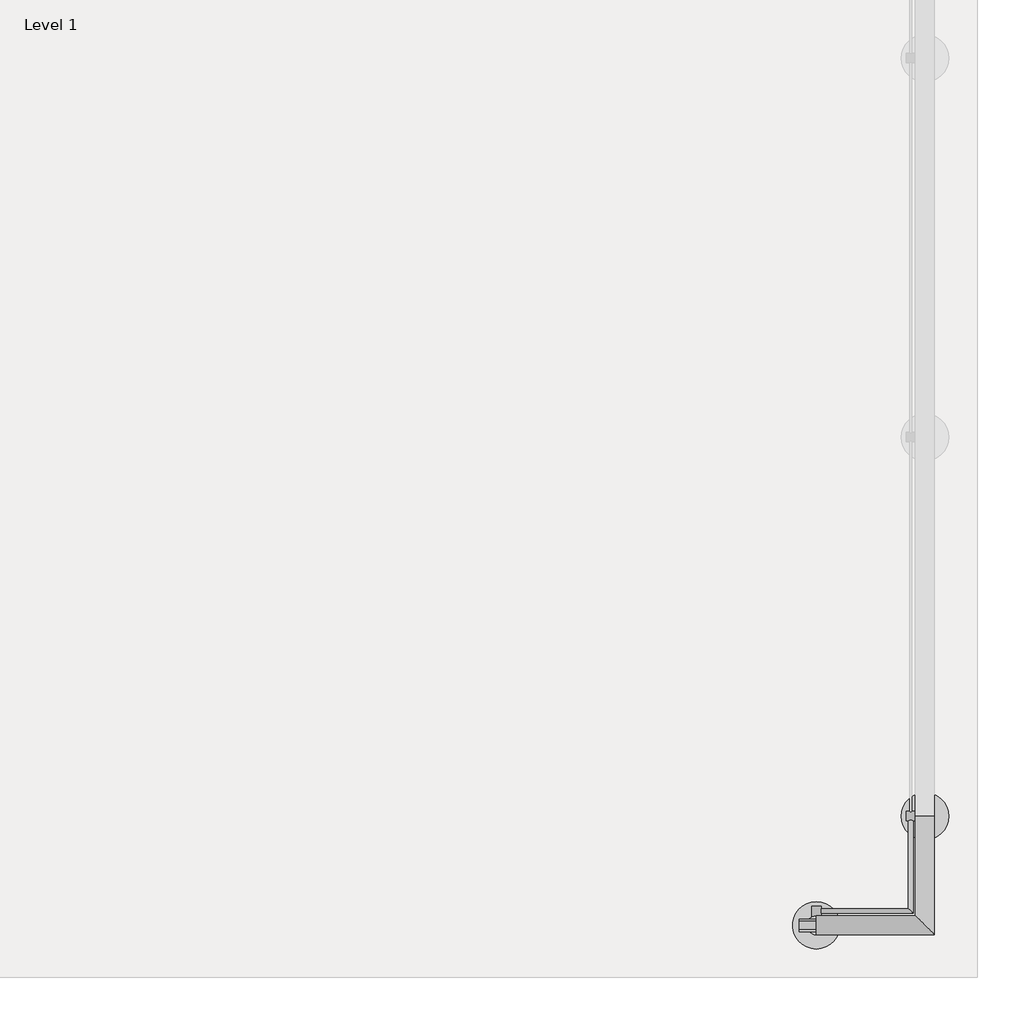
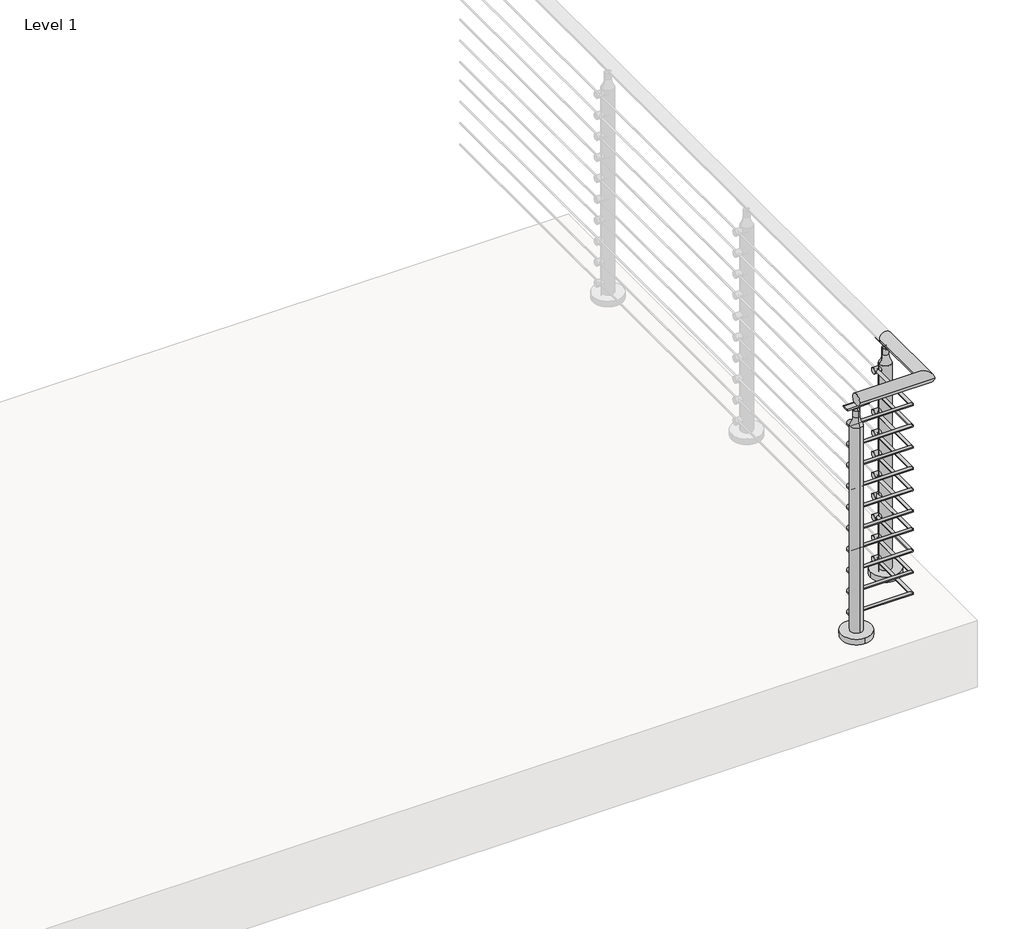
# One storey, part 8 of 21: 1 railing.
"""IFC4 building model written with IfcOpenShell, lengths in millimetres."""

from ifc_helpers import new_model, si_unit, point, frame, frame_2d, origin, origin_with_axes, place, context, project, spatial, polyline, circle_curve, ellipse_curve, trimmed, segment, composite_curve, outline, extrude, element, save
from ifc_brep_helpers import plane_surface, cylinder_surface, revolved_surface, advanced_brep

model = new_model("IFC4")

# Units and contexts
model_context = context("Model", 3, world=origin())
ifc_project = project(units=[si_unit("LENGTHUNIT", "METRE", prefix="MILLI")], contexts=[model_context])

# Site, building, storey
site = spatial("IfcSite", under=ifc_project)
building = spatial("IfcBuilding", under=site)
storey = spatial("IfcBuildingStorey", under=building, Name="Level 1", Elevation=0.0)

# Railing
placement = place(None, origin())
element("IfcRailing", 1, ObjectType="VIVA-CIRCA-Multiline-Cable-Core Mount-Corner", at=placement, inside=storey, context=model_context, shape_type="SolidModel", body=[
    advanced_brep(
    [(69591.9592968, -73670.2943064, 1054.1), (69591.9592968, -73619.4943064, 1054.1), (69909.4592968, -73670.2943064, 1054.1), (69858.6592968, -73619.4943064, 1054.1), (69909.4592968, -73352.7943064, 1054.1), (69858.6592968, -73352.7943064, 1054.1)],
    [
        (0, 1, circle_curve(frame((69591.9592968, -73644.8943064, 1054.1), z_axis=(-1.0, 0.0, 0.0), x_axis=(0.0, 1.0, 0.0)), 25.4)),
        (1, 0, circle_curve(frame((69591.9592968, -73644.8943064, 1054.1), z_axis=(-1.0, 0.0, 0.0), x_axis=(0.0, 1.0, 0.0)), 25.4)),
        (0, 2),
        (2, 3, ellipse_curve(frame((69884.0592968, -73644.8943064, 1054.1), z_axis=(-0.7071067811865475, -0.7071067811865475, 0.0), x_axis=(-0.7071067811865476, 0.7071067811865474, 0.0)), 35.9210245, 25.4)),
        (3, 1),
        (3, 2, ellipse_curve(frame((69884.0592968, -73644.8943064, 1054.1), z_axis=(-0.7071067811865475, -0.7071067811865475, 0.0), x_axis=(-0.7071067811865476, 0.7071067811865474, 0.0)), 35.9210245, 25.4)),
        (4, 5, circle_curve(frame((69884.0592968, -73352.7943064, 1054.1), z_axis=(0.0, 1.0, 0.0), x_axis=(-1.0, 0.0, 0.0)), 25.4)),
        (5, 4, circle_curve(frame((69884.0592968, -73352.7943064, 1054.1), z_axis=(0.0, 1.0, 0.0), x_axis=(-1.0, 0.0, 0.0)), 25.4)),
        (2, 4),
        (5, 3),
    ],
    [
        plane_surface(frame((69591.9592968, -73644.8943064, 1079.5), z_axis=(-1.0, 0.0, 0.0), x_axis=(0.0, 1.0, 0.0))),
        cylinder_surface(frame((69591.9592968, -73644.8943064, 1054.1), z_axis=(-1.0, 0.0, 0.0), x_axis=(0.0, 1.0, 0.0)), 25.4),
        plane_surface(frame((69884.0592968, -73352.7943064, 1079.5), z_axis=(0.0, 1.0, 0.0), x_axis=(0.0, 0.0, 1.0))),
        cylinder_surface(frame((69884.0592968, -73644.8943064, 1054.1), z_axis=(0.0, -1.0, 0.0), x_axis=(-1.0, 0.0, 0.0)), 25.4),
    ],
    [
        (0, [[1, 2]]),
        (1, [[-1, 3, 4, 5]]),
        (1, [[-2, -5, 6, -3]]),
        (2, [[7, 8]]),
        (3, [[-4, 9, -8, 10]]),
        (3, [[-6, -10, -7, -9]]),
    ],
),
    advanced_brep(
    [(69591.9592968, -73600.4443064, 920.75), (69591.9592968, -73613.1443064, 920.75), (69839.6092968, -73600.4443064, 920.75), (69852.3092968, -73613.1443064, 920.75), (69839.6092968, -73352.7943064, 920.75), (69852.3092968, -73352.7943064, 920.75)],
    [
        (0, 1, circle_curve(frame((69591.9592968, -73606.7943064, 920.75), z_axis=(-1.0, 0.0, 0.0), x_axis=(0.0, -1.0, 0.0)), 6.35)),
        (1, 0, circle_curve(frame((69591.9592968, -73606.7943064, 920.75), z_axis=(-1.0, 0.0, 0.0), x_axis=(0.0, -1.0, 0.0)), 6.35)),
        (0, 2),
        (2, 3, ellipse_curve(frame((69845.9592968, -73606.7943064, 920.75), z_axis=(-0.7071067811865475, -0.7071067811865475, 0.0), x_axis=(-0.7071067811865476, 0.7071067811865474, 0.0)), 8.9802561, 6.35)),
        (3, 1),
        (3, 2, ellipse_curve(frame((69845.9592968, -73606.7943064, 920.75), z_axis=(-0.7071067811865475, -0.7071067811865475, 0.0), x_axis=(-0.7071067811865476, 0.7071067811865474, 0.0)), 8.9802561, 6.35)),
        (4, 5, circle_curve(frame((69845.9592968, -73352.7943064, 920.75), z_axis=(0.0, 1.0, 0.0), x_axis=(1.0, 0.0, 0.0)), 6.35)),
        (5, 4, circle_curve(frame((69845.9592968, -73352.7943064, 920.75), z_axis=(0.0, 1.0, 0.0), x_axis=(1.0, 0.0, 0.0)), 6.35)),
        (2, 4),
        (5, 3),
    ],
    [
        plane_surface(frame((69591.9592968, -73606.7943064, 927.1), z_axis=(-1.0, 0.0, 0.0), x_axis=(0.0, 1.0, 0.0))),
        cylinder_surface(frame((69591.9592968, -73606.7943064, 920.75), z_axis=(-1.0, 0.0, 0.0), x_axis=(0.0, -1.0, 0.0)), 6.35),
        plane_surface(frame((69845.9592968, -73352.7943064, 927.1), z_axis=(0.0, 1.0, 0.0), x_axis=(0.0, 0.0, 1.0))),
        cylinder_surface(frame((69845.9592968, -73606.7943064, 920.75), z_axis=(0.0, -1.0, 0.0), x_axis=(1.0, 0.0, 0.0)), 6.35),
    ],
    [
        (0, [[1, 2]]),
        (1, [[-1, 3, 4, 5]]),
        (1, [[-2, -5, 6, -3]]),
        (2, [[7, 8]]),
        (3, [[-4, 9, -8, 10]]),
        (3, [[-6, -10, -7, -9]]),
    ],
),
    advanced_brep(
    [(69591.9592968, -73600.4443064, 825.5), (69591.9592968, -73613.1443064, 825.5), (69839.6092968, -73600.4443064, 825.5), (69852.3092968, -73613.1443064, 825.5), (69839.6092968, -73352.7943064, 825.5), (69852.3092968, -73352.7943064, 825.5)],
    [
        (0, 1, circle_curve(frame((69591.9592968, -73606.7943064, 825.5), z_axis=(-1.0, 0.0, 0.0), x_axis=(0.0, -1.0, 0.0)), 6.35)),
        (1, 0, circle_curve(frame((69591.9592968, -73606.7943064, 825.5), z_axis=(-1.0, 0.0, 0.0), x_axis=(0.0, -1.0, 0.0)), 6.35)),
        (0, 2),
        (2, 3, ellipse_curve(frame((69845.9592968, -73606.7943064, 825.5), z_axis=(-0.7071067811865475, -0.7071067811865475, 0.0), x_axis=(-0.7071067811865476, 0.7071067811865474, 0.0)), 8.9802561, 6.35)),
        (3, 1),
        (3, 2, ellipse_curve(frame((69845.9592968, -73606.7943064, 825.5), z_axis=(-0.7071067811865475, -0.7071067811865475, 0.0), x_axis=(-0.7071067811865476, 0.7071067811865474, 0.0)), 8.9802561, 6.35)),
        (4, 5, circle_curve(frame((69845.9592968, -73352.7943064, 825.5), z_axis=(0.0, 1.0, 0.0), x_axis=(1.0, 0.0, 0.0)), 6.35)),
        (5, 4, circle_curve(frame((69845.9592968, -73352.7943064, 825.5), z_axis=(0.0, 1.0, 0.0), x_axis=(1.0, 0.0, 0.0)), 6.35)),
        (2, 4),
        (5, 3),
    ],
    [
        plane_surface(frame((69591.9592968, -73606.7943064, 831.85), z_axis=(-1.0, 0.0, 0.0), x_axis=(0.0, 1.0, 0.0))),
        cylinder_surface(frame((69591.9592968, -73606.7943064, 825.5), z_axis=(-1.0, 0.0, 0.0), x_axis=(0.0, -1.0, 0.0)), 6.35),
        plane_surface(frame((69845.9592968, -73352.7943064, 831.85), z_axis=(0.0, 1.0, 0.0), x_axis=(0.0, 0.0, 1.0))),
        cylinder_surface(frame((69845.9592968, -73606.7943064, 825.5), z_axis=(0.0, -1.0, 0.0), x_axis=(1.0, 0.0, 0.0)), 6.35),
    ],
    [
        (0, [[1, 2]]),
        (1, [[-1, 3, 4, 5]]),
        (1, [[-2, -5, 6, -3]]),
        (2, [[7, 8]]),
        (3, [[-4, 9, -8, 10]]),
        (3, [[-6, -10, -7, -9]]),
    ],
),
    advanced_brep(
    [(69591.9592968, -73600.4443064, 730.25), (69591.9592968, -73613.1443064, 730.25), (69839.6092968, -73600.4443064, 730.25), (69852.3092968, -73613.1443064, 730.25), (69839.6092968, -73352.7943064, 730.25), (69852.3092968, -73352.7943064, 730.25)],
    [
        (0, 1, circle_curve(frame((69591.9592968, -73606.7943064, 730.25), z_axis=(-1.0, 0.0, 0.0), x_axis=(0.0, -1.0, 0.0)), 6.35)),
        (1, 0, circle_curve(frame((69591.9592968, -73606.7943064, 730.25), z_axis=(-1.0, 0.0, 0.0), x_axis=(0.0, -1.0, 0.0)), 6.35)),
        (0, 2),
        (2, 3, ellipse_curve(frame((69845.9592968, -73606.7943064, 730.25), z_axis=(-0.7071067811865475, -0.7071067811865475, 0.0), x_axis=(-0.7071067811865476, 0.7071067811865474, 0.0)), 8.9802561, 6.35)),
        (3, 1),
        (3, 2, ellipse_curve(frame((69845.9592968, -73606.7943064, 730.25), z_axis=(-0.7071067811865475, -0.7071067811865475, 0.0), x_axis=(-0.7071067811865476, 0.7071067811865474, 0.0)), 8.9802561, 6.35)),
        (4, 5, circle_curve(frame((69845.9592968, -73352.7943064, 730.25), z_axis=(0.0, 1.0, 0.0), x_axis=(1.0, 0.0, 0.0)), 6.35)),
        (5, 4, circle_curve(frame((69845.9592968, -73352.7943064, 730.25), z_axis=(0.0, 1.0, 0.0), x_axis=(1.0, 0.0, 0.0)), 6.35)),
        (2, 4),
        (5, 3),
    ],
    [
        plane_surface(frame((69591.9592968, -73606.7943064, 736.6), z_axis=(-1.0, 0.0, 0.0), x_axis=(0.0, 1.0, 0.0))),
        cylinder_surface(frame((69591.9592968, -73606.7943064, 730.25), z_axis=(-1.0, 0.0, 0.0), x_axis=(0.0, -1.0, 0.0)), 6.35),
        plane_surface(frame((69845.9592968, -73352.7943064, 736.6), z_axis=(0.0, 1.0, 0.0), x_axis=(0.0, 0.0, 1.0))),
        cylinder_surface(frame((69845.9592968, -73606.7943064, 730.25), z_axis=(0.0, -1.0, 0.0), x_axis=(1.0, 0.0, 0.0)), 6.35),
    ],
    [
        (0, [[1, 2]]),
        (1, [[-1, 3, 4, 5]]),
        (1, [[-2, -5, 6, -3]]),
        (2, [[7, 8]]),
        (3, [[-4, 9, -8, 10]]),
        (3, [[-6, -10, -7, -9]]),
    ],
),
    advanced_brep(
    [(69591.9592968, -73600.4443064, 635.0), (69591.9592968, -73613.1443064, 635.0), (69839.6092968, -73600.4443064, 635.0), (69852.3092968, -73613.1443064, 635.0), (69839.6092968, -73352.7943064, 635.0), (69852.3092968, -73352.7943064, 635.0)],
    [
        (0, 1, circle_curve(frame((69591.9592968, -73606.7943064, 635.0), z_axis=(-1.0, 0.0, 0.0), x_axis=(0.0, -1.0, 0.0)), 6.35)),
        (1, 0, circle_curve(frame((69591.9592968, -73606.7943064, 635.0), z_axis=(-1.0, 0.0, 0.0), x_axis=(0.0, -1.0, 0.0)), 6.35)),
        (0, 2),
        (2, 3, ellipse_curve(frame((69845.9592968, -73606.7943064, 635.0), z_axis=(-0.7071067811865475, -0.7071067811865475, 0.0), x_axis=(-0.7071067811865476, 0.7071067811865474, 0.0)), 8.9802561, 6.35)),
        (3, 1),
        (3, 2, ellipse_curve(frame((69845.9592968, -73606.7943064, 635.0), z_axis=(-0.7071067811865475, -0.7071067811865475, 0.0), x_axis=(-0.7071067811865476, 0.7071067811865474, 0.0)), 8.9802561, 6.35)),
        (4, 5, circle_curve(frame((69845.9592968, -73352.7943064, 635.0), z_axis=(0.0, 1.0, 0.0), x_axis=(1.0, 0.0, 0.0)), 6.35)),
        (5, 4, circle_curve(frame((69845.9592968, -73352.7943064, 635.0), z_axis=(0.0, 1.0, 0.0), x_axis=(1.0, 0.0, 0.0)), 6.35)),
        (2, 4),
        (5, 3),
    ],
    [
        plane_surface(frame((69591.9592968, -73606.7943064, 641.35), z_axis=(-1.0, 0.0, 0.0), x_axis=(0.0, 1.0, 0.0))),
        cylinder_surface(frame((69591.9592968, -73606.7943064, 635.0), z_axis=(-1.0, 0.0, 0.0), x_axis=(0.0, -1.0, 0.0)), 6.35),
        plane_surface(frame((69845.9592968, -73352.7943064, 641.35), z_axis=(0.0, 1.0, 0.0), x_axis=(0.0, 0.0, 1.0))),
        cylinder_surface(frame((69845.9592968, -73606.7943064, 635.0), z_axis=(0.0, -1.0, 0.0), x_axis=(1.0, 0.0, 0.0)), 6.35),
    ],
    [
        (0, [[1, 2]]),
        (1, [[-1, 3, 4, 5]]),
        (1, [[-2, -5, 6, -3]]),
        (2, [[7, 8]]),
        (3, [[-4, 9, -8, 10]]),
        (3, [[-6, -10, -7, -9]]),
    ],
),
    advanced_brep(
    [(69591.9592968, -73600.4443064, 539.75), (69591.9592968, -73613.1443064, 539.75), (69839.6092968, -73600.4443064, 539.75), (69852.3092968, -73613.1443064, 539.75), (69839.6092968, -73352.7943064, 539.75), (69852.3092968, -73352.7943064, 539.75)],
    [
        (0, 1, circle_curve(frame((69591.9592968, -73606.7943064, 539.75), z_axis=(-1.0, 0.0, 0.0), x_axis=(0.0, -1.0, 0.0)), 6.35)),
        (1, 0, circle_curve(frame((69591.9592968, -73606.7943064, 539.75), z_axis=(-1.0, 0.0, 0.0), x_axis=(0.0, -1.0, 0.0)), 6.35)),
        (0, 2),
        (2, 3, ellipse_curve(frame((69845.9592968, -73606.7943064, 539.75), z_axis=(-0.7071067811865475, -0.7071067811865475, 0.0), x_axis=(-0.7071067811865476, 0.7071067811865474, 0.0)), 8.9802561, 6.35)),
        (3, 1),
        (3, 2, ellipse_curve(frame((69845.9592968, -73606.7943064, 539.75), z_axis=(-0.7071067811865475, -0.7071067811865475, 0.0), x_axis=(-0.7071067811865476, 0.7071067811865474, 0.0)), 8.9802561, 6.35)),
        (4, 5, circle_curve(frame((69845.9592968, -73352.7943064, 539.75), z_axis=(0.0, 1.0, 0.0), x_axis=(1.0, 0.0, 0.0)), 6.35)),
        (5, 4, circle_curve(frame((69845.9592968, -73352.7943064, 539.75), z_axis=(0.0, 1.0, 0.0), x_axis=(1.0, 0.0, 0.0)), 6.35)),
        (2, 4),
        (5, 3),
    ],
    [
        plane_surface(frame((69591.9592968, -73606.7943064, 546.1), z_axis=(-1.0, 0.0, 0.0), x_axis=(0.0, 1.0, 0.0))),
        cylinder_surface(frame((69591.9592968, -73606.7943064, 539.75), z_axis=(-1.0, 0.0, 0.0), x_axis=(0.0, -1.0, 0.0)), 6.35),
        plane_surface(frame((69845.9592968, -73352.7943064, 546.1), z_axis=(0.0, 1.0, 0.0), x_axis=(0.0, 0.0, 1.0))),
        cylinder_surface(frame((69845.9592968, -73606.7943064, 539.75), z_axis=(0.0, -1.0, 0.0), x_axis=(1.0, 0.0, 0.0)), 6.35),
    ],
    [
        (0, [[1, 2]]),
        (1, [[-1, 3, 4, 5]]),
        (1, [[-2, -5, 6, -3]]),
        (2, [[7, 8]]),
        (3, [[-4, 9, -8, 10]]),
        (3, [[-6, -10, -7, -9]]),
    ],
),
    advanced_brep(
    [(69591.9592968, -73600.4443064, 444.5), (69591.9592968, -73613.1443064, 444.5), (69839.6092968, -73600.4443064, 444.5), (69852.3092968, -73613.1443064, 444.5), (69839.6092968, -73352.7943064, 444.5), (69852.3092968, -73352.7943064, 444.5)],
    [
        (0, 1, circle_curve(frame((69591.9592968, -73606.7943064, 444.5), z_axis=(-1.0, 0.0, 0.0), x_axis=(0.0, -1.0, 0.0)), 6.35)),
        (1, 0, circle_curve(frame((69591.9592968, -73606.7943064, 444.5), z_axis=(-1.0, 0.0, 0.0), x_axis=(0.0, -1.0, 0.0)), 6.35)),
        (0, 2),
        (2, 3, ellipse_curve(frame((69845.9592968, -73606.7943064, 444.5), z_axis=(-0.7071067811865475, -0.7071067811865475, 0.0), x_axis=(-0.7071067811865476, 0.7071067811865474, 0.0)), 8.9802561, 6.35)),
        (3, 1),
        (3, 2, ellipse_curve(frame((69845.9592968, -73606.7943064, 444.5), z_axis=(-0.7071067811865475, -0.7071067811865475, 0.0), x_axis=(-0.7071067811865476, 0.7071067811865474, 0.0)), 8.9802561, 6.35)),
        (4, 5, circle_curve(frame((69845.9592968, -73352.7943064, 444.5), z_axis=(0.0, 1.0, 0.0), x_axis=(1.0, 0.0, 0.0)), 6.35)),
        (5, 4, circle_curve(frame((69845.9592968, -73352.7943064, 444.5), z_axis=(0.0, 1.0, 0.0), x_axis=(1.0, 0.0, 0.0)), 6.35)),
        (2, 4),
        (5, 3),
    ],
    [
        plane_surface(frame((69591.9592968, -73606.7943064, 450.85), z_axis=(-1.0, 0.0, 0.0), x_axis=(0.0, 1.0, 0.0))),
        cylinder_surface(frame((69591.9592968, -73606.7943064, 444.5), z_axis=(-1.0, 0.0, 0.0), x_axis=(0.0, -1.0, 0.0)), 6.35),
        plane_surface(frame((69845.9592968, -73352.7943064, 450.85), z_axis=(0.0, 1.0, 0.0), x_axis=(0.0, 0.0, 1.0))),
        cylinder_surface(frame((69845.9592968, -73606.7943064, 444.5), z_axis=(0.0, -1.0, 0.0), x_axis=(1.0, 0.0, 0.0)), 6.35),
    ],
    [
        (0, [[1, 2]]),
        (1, [[-1, 3, 4, 5]]),
        (1, [[-2, -5, 6, -3]]),
        (2, [[7, 8]]),
        (3, [[-4, 9, -8, 10]]),
        (3, [[-6, -10, -7, -9]]),
    ],
),
    advanced_brep(
    [(69591.9592968, -73600.4443064, 361.95), (69591.9592968, -73613.1443064, 361.95), (69839.6092968, -73600.4443064, 361.95), (69852.3092968, -73613.1443064, 361.95), (69839.6092968, -73352.7943064, 361.95), (69852.3092968, -73352.7943064, 361.95)],
    [
        (0, 1, circle_curve(frame((69591.9592968, -73606.7943064, 361.95), z_axis=(-1.0, 0.0, 0.0), x_axis=(0.0, -1.0, 0.0)), 6.35)),
        (1, 0, circle_curve(frame((69591.9592968, -73606.7943064, 361.95), z_axis=(-1.0, 0.0, 0.0), x_axis=(0.0, -1.0, 0.0)), 6.35)),
        (0, 2),
        (2, 3, ellipse_curve(frame((69845.9592968, -73606.7943064, 361.95), z_axis=(-0.7071067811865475, -0.7071067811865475, 0.0), x_axis=(-0.7071067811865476, 0.7071067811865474, 0.0)), 8.9802561, 6.35)),
        (3, 1),
        (3, 2, ellipse_curve(frame((69845.9592968, -73606.7943064, 361.95), z_axis=(-0.7071067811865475, -0.7071067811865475, 0.0), x_axis=(-0.7071067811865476, 0.7071067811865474, 0.0)), 8.9802561, 6.35)),
        (4, 5, circle_curve(frame((69845.9592968, -73352.7943064, 361.95), z_axis=(0.0, 1.0, 0.0), x_axis=(1.0, 0.0, 0.0)), 6.35)),
        (5, 4, circle_curve(frame((69845.9592968, -73352.7943064, 361.95), z_axis=(0.0, 1.0, 0.0), x_axis=(1.0, 0.0, 0.0)), 6.35)),
        (2, 4),
        (5, 3),
    ],
    [
        plane_surface(frame((69591.9592968, -73606.7943064, 368.3), z_axis=(-1.0, 0.0, 0.0), x_axis=(0.0, 1.0, 0.0))),
        cylinder_surface(frame((69591.9592968, -73606.7943064, 361.95), z_axis=(-1.0, 0.0, 0.0), x_axis=(0.0, -1.0, 0.0)), 6.35),
        plane_surface(frame((69845.9592968, -73352.7943064, 368.3), z_axis=(0.0, 1.0, 0.0), x_axis=(0.0, 0.0, 1.0))),
        cylinder_surface(frame((69845.9592968, -73606.7943064, 361.95), z_axis=(0.0, -1.0, 0.0), x_axis=(1.0, 0.0, 0.0)), 6.35),
    ],
    [
        (0, [[1, 2]]),
        (1, [[-1, 3, 4, 5]]),
        (1, [[-2, -5, 6, -3]]),
        (2, [[7, 8]]),
        (3, [[-4, 9, -8, 10]]),
        (3, [[-6, -10, -7, -9]]),
    ],
),
    advanced_brep(
    [(69591.9592968, -73600.4443064, 266.7), (69591.9592968, -73613.1443064, 266.7), (69839.6092968, -73600.4443064, 266.7), (69852.3092968, -73613.1443064, 266.7), (69839.6092968, -73352.7943064, 266.7), (69852.3092968, -73352.7943064, 266.7)],
    [
        (0, 1, circle_curve(frame((69591.9592968, -73606.7943064, 266.7), z_axis=(-1.0, 0.0, 0.0), x_axis=(0.0, -1.0, 0.0)), 6.35)),
        (1, 0, circle_curve(frame((69591.9592968, -73606.7943064, 266.7), z_axis=(-1.0, 0.0, 0.0), x_axis=(0.0, -1.0, 0.0)), 6.35)),
        (0, 2),
        (2, 3, ellipse_curve(frame((69845.9592968, -73606.7943064, 266.7), z_axis=(-0.7071067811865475, -0.7071067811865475, 0.0), x_axis=(-0.7071067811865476, 0.7071067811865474, 0.0)), 8.9802561, 6.35)),
        (3, 1),
        (3, 2, ellipse_curve(frame((69845.9592968, -73606.7943064, 266.7), z_axis=(-0.7071067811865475, -0.7071067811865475, 0.0), x_axis=(-0.7071067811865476, 0.7071067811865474, 0.0)), 8.9802561, 6.35)),
        (4, 5, circle_curve(frame((69845.9592968, -73352.7943064, 266.7), z_axis=(0.0, 1.0, 0.0), x_axis=(1.0, 0.0, 0.0)), 6.35)),
        (5, 4, circle_curve(frame((69845.9592968, -73352.7943064, 266.7), z_axis=(0.0, 1.0, 0.0), x_axis=(1.0, 0.0, 0.0)), 6.35)),
        (2, 4),
        (5, 3),
    ],
    [
        plane_surface(frame((69591.9592968, -73606.7943064, 273.05), z_axis=(-1.0, 0.0, 0.0), x_axis=(0.0, 1.0, 0.0))),
        cylinder_surface(frame((69591.9592968, -73606.7943064, 266.7), z_axis=(-1.0, 0.0, 0.0), x_axis=(0.0, -1.0, 0.0)), 6.35),
        plane_surface(frame((69845.9592968, -73352.7943064, 273.05), z_axis=(0.0, 1.0, 0.0), x_axis=(0.0, 0.0, 1.0))),
        cylinder_surface(frame((69845.9592968, -73606.7943064, 266.7), z_axis=(0.0, -1.0, 0.0), x_axis=(1.0, 0.0, 0.0)), 6.35),
    ],
    [
        (0, [[1, 2]]),
        (1, [[-1, 3, 4, 5]]),
        (1, [[-2, -5, 6, -3]]),
        (2, [[7, 8]]),
        (3, [[-4, 9, -8, 10]]),
        (3, [[-6, -10, -7, -9]]),
    ],
),
    advanced_brep(
    [(69591.9592968, -73600.4443064, 171.45), (69591.9592968, -73613.1443064, 171.45), (69839.6092968, -73600.4443064, 171.45), (69852.3092968, -73613.1443064, 171.45), (69839.6092968, -73352.7943064, 171.45), (69852.3092968, -73352.7943064, 171.45)],
    [
        (0, 1, circle_curve(frame((69591.9592968, -73606.7943064, 171.45), z_axis=(-1.0, 0.0, 0.0), x_axis=(0.0, -1.0, 0.0)), 6.35)),
        (1, 0, circle_curve(frame((69591.9592968, -73606.7943064, 171.45), z_axis=(-1.0, 0.0, 0.0), x_axis=(0.0, -1.0, 0.0)), 6.35)),
        (0, 2),
        (2, 3, ellipse_curve(frame((69845.9592968, -73606.7943064, 171.45), z_axis=(-0.7071067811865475, -0.7071067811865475, 0.0), x_axis=(-0.7071067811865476, 0.7071067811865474, 0.0)), 8.9802561, 6.35)),
        (3, 1),
        (3, 2, ellipse_curve(frame((69845.9592968, -73606.7943064, 171.45), z_axis=(-0.7071067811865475, -0.7071067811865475, 0.0), x_axis=(-0.7071067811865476, 0.7071067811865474, 0.0)), 8.9802561, 6.35)),
        (4, 5, circle_curve(frame((69845.9592968, -73352.7943064, 171.45), z_axis=(0.0, 1.0, 0.0), x_axis=(1.0, 0.0, 0.0)), 6.35)),
        (5, 4, circle_curve(frame((69845.9592968, -73352.7943064, 171.45), z_axis=(0.0, 1.0, 0.0), x_axis=(1.0, 0.0, 0.0)), 6.35)),
        (2, 4),
        (5, 3),
    ],
    [
        plane_surface(frame((69591.9592968, -73606.7943064, 177.8), z_axis=(-1.0, 0.0, 0.0), x_axis=(0.0, 1.0, 0.0))),
        cylinder_surface(frame((69591.9592968, -73606.7943064, 171.45), z_axis=(-1.0, 0.0, 0.0), x_axis=(0.0, -1.0, 0.0)), 6.35),
        plane_surface(frame((69845.9592968, -73352.7943064, 177.8), z_axis=(0.0, 1.0, 0.0), x_axis=(0.0, 0.0, 1.0))),
        cylinder_surface(frame((69845.9592968, -73606.7943064, 171.45), z_axis=(0.0, -1.0, 0.0), x_axis=(1.0, 0.0, 0.0)), 6.35),
    ],
    [
        (0, [[1, 2]]),
        (1, [[-1, 3, 4, 5]]),
        (1, [[-2, -5, 6, -3]]),
        (2, [[7, 8]]),
        (3, [[-4, 9, -8, 10]]),
        (3, [[-6, -10, -7, -9]]),
    ],
),
    advanced_brep(
    [(69591.9592968, -73600.4443064, 76.2), (69591.9592968, -73613.1443064, 76.2), (69839.6092968, -73600.4443064, 76.2), (69852.3092968, -73613.1443064, 76.2), (69839.6092968, -73352.7943064, 76.2), (69852.3092968, -73352.7943064, 76.2)],
    [
        (0, 1, circle_curve(frame((69591.9592968, -73606.7943064, 76.2), z_axis=(-1.0, 0.0, 0.0), x_axis=(0.0, -1.0, 0.0)), 6.35)),
        (1, 0, circle_curve(frame((69591.9592968, -73606.7943064, 76.2), z_axis=(-1.0, 0.0, 0.0), x_axis=(0.0, -1.0, 0.0)), 6.35)),
        (0, 2),
        (2, 3, ellipse_curve(frame((69845.9592968, -73606.7943064, 76.2), z_axis=(-0.7071067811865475, -0.7071067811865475, 0.0), x_axis=(-0.7071067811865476, 0.7071067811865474, 0.0)), 8.9802561, 6.35)),
        (3, 1),
        (3, 2, ellipse_curve(frame((69845.9592968, -73606.7943064, 76.2), z_axis=(-0.7071067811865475, -0.7071067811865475, 0.0), x_axis=(-0.7071067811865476, 0.7071067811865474, 0.0)), 8.9802561, 6.35)),
        (4, 5, circle_curve(frame((69845.9592968, -73352.7943064, 76.2), z_axis=(0.0, 1.0, 0.0), x_axis=(1.0, 0.0, 0.0)), 6.35)),
        (5, 4, circle_curve(frame((69845.9592968, -73352.7943064, 76.2), z_axis=(0.0, 1.0, 0.0), x_axis=(1.0, 0.0, 0.0)), 6.35)),
        (2, 4),
        (5, 3),
    ],
    [
        plane_surface(frame((69591.9592968, -73606.7943064, 82.55), z_axis=(-1.0, 0.0, 0.0), x_axis=(0.0, 1.0, 0.0))),
        cylinder_surface(frame((69591.9592968, -73606.7943064, 76.2), z_axis=(-1.0, 0.0, 0.0), x_axis=(0.0, -1.0, 0.0)), 6.35),
        plane_surface(frame((69845.9592968, -73352.7943064, 82.55), z_axis=(0.0, 1.0, 0.0), x_axis=(0.0, 0.0, 1.0))),
        cylinder_surface(frame((69845.9592968, -73606.7943064, 76.2), z_axis=(0.0, -1.0, 0.0), x_axis=(1.0, 0.0, 0.0)), 6.35),
    ],
    [
        (0, [[1, 2]]),
        (1, [[-1, 3, 4, 5]]),
        (1, [[-2, -5, 6, -3]]),
        (2, [[7, 8]]),
        (3, [[-4, 9, -8, 10]]),
        (3, [[-6, -10, -7, -9]]),
    ],
),
    extrude(outline(composite_curve([segment(trimmed(circle_curve(frame_2d((69884.0592968, -73352.3974314)), 63.5), [point((69947.5592968, -73352.3974314))], [point((69820.5592968, -73352.3974314))], False, "CARTESIAN"), True, "CONTINUOUS"), segment(trimmed(circle_curve(frame_2d((69884.0592968, -73352.3974314)), 63.5), [point((69820.5592968, -73352.3974314))], [point((69947.5592968, -73352.3974314))], False, "CARTESIAN"), True, "CONTINUOUS")], self_intersect=False)), origin_with_axes(), (0.0, 0.0, 1.0), 25.4),
    extrude(outline(composite_curve([segment(trimmed(circle_curve(frame_2d((-73352.0005564, 76.2)), 12.666458), [point((-73339.3340985, 76.2))], [point((-73364.6670144, 76.2))], False, "CARTESIAN"), True, "CONTINUOUS"), segment(trimmed(circle_curve(frame_2d((-73352.0005564, 76.2)), 12.666458), [point((-73364.6670144, 76.2))], [point((-73339.3340985, 76.2))], False, "CARTESIAN"), True, "CONTINUOUS")], self_intersect=False)), frame((69833.2592968, 0.0, 0.0), z_axis=(1.0, 0.0, 0.0), x_axis=(0.0, 1.0, 0.0)), (0.0, 0.0, 1.0), 50.8),
    extrude(outline(composite_curve([segment(trimmed(circle_curve(frame_2d((-73352.0005564, 170.0388889)), 12.666458), [point((-73339.3340985, 170.0388889))], [point((-73364.6670144, 170.0388889))], False, "CARTESIAN"), True, "CONTINUOUS"), segment(trimmed(circle_curve(frame_2d((-73352.0005564, 170.0388889)), 12.666458), [point((-73364.6670144, 170.0388889))], [point((-73339.3340985, 170.0388889))], False, "CARTESIAN"), True, "CONTINUOUS")], self_intersect=False)), frame((69833.2592968, 0.0, 0.0), z_axis=(1.0, 0.0, 0.0), x_axis=(0.0, 1.0, 0.0)), (0.0, 0.0, 1.0), 50.8),
    extrude(outline(composite_curve([segment(trimmed(circle_curve(frame_2d((-73352.0005564, 263.8777778)), 12.666458), [point((-73339.3340985, 263.8777778))], [point((-73364.6670144, 263.8777778))], False, "CARTESIAN"), True, "CONTINUOUS"), segment(trimmed(circle_curve(frame_2d((-73352.0005564, 263.8777778)), 12.666458), [point((-73364.6670144, 263.8777778))], [point((-73339.3340985, 263.8777778))], False, "CARTESIAN"), True, "CONTINUOUS")], self_intersect=False)), frame((69833.2592968, 0.0, 0.0), z_axis=(1.0, 0.0, 0.0), x_axis=(0.0, 1.0, 0.0)), (0.0, 0.0, 1.0), 50.8),
    extrude(outline(composite_curve([segment(trimmed(circle_curve(frame_2d((-73352.0005564, 357.7166667)), 12.666458), [point((-73339.3340985, 357.7166667))], [point((-73364.6670144, 357.7166667))], False, "CARTESIAN"), True, "CONTINUOUS"), segment(trimmed(circle_curve(frame_2d((-73352.0005564, 357.7166667)), 12.666458), [point((-73364.6670144, 357.7166667))], [point((-73339.3340985, 357.7166667))], False, "CARTESIAN"), True, "CONTINUOUS")], self_intersect=False)), frame((69833.2592968, 0.0, 0.0), z_axis=(1.0, 0.0, 0.0), x_axis=(0.0, 1.0, 0.0)), (0.0, 0.0, 1.0), 50.8),
    extrude(outline(composite_curve([segment(trimmed(circle_curve(frame_2d((-73352.0005564, 451.5555556)), 12.666458), [point((-73339.3340985, 451.5555556))], [point((-73364.6670144, 451.5555556))], False, "CARTESIAN"), True, "CONTINUOUS"), segment(trimmed(circle_curve(frame_2d((-73352.0005564, 451.5555556)), 12.666458), [point((-73364.6670144, 451.5555556))], [point((-73339.3340985, 451.5555556))], False, "CARTESIAN"), True, "CONTINUOUS")], self_intersect=False)), frame((69833.2592968, 0.0, 0.0), z_axis=(1.0, 0.0, 0.0), x_axis=(0.0, 1.0, 0.0)), (0.0, 0.0, 1.0), 50.8),
    extrude(outline(composite_curve([segment(trimmed(circle_curve(frame_2d((-73352.0005564, 545.3944444)), 12.666458), [point((-73339.3340985, 545.3944444))], [point((-73364.6670144, 545.3944444))], False, "CARTESIAN"), True, "CONTINUOUS"), segment(trimmed(circle_curve(frame_2d((-73352.0005564, 545.3944444)), 12.666458), [point((-73364.6670144, 545.3944444))], [point((-73339.3340985, 545.3944444))], False, "CARTESIAN"), True, "CONTINUOUS")], self_intersect=False)), frame((69833.2592968, 0.0, 0.0), z_axis=(1.0, 0.0, 0.0), x_axis=(0.0, 1.0, 0.0)), (0.0, 0.0, 1.0), 50.8),
    extrude(outline(composite_curve([segment(trimmed(circle_curve(frame_2d((-73352.0005564, 639.2333333)), 12.666458), [point((-73339.3340985, 639.2333333))], [point((-73364.6670144, 639.2333333))], False, "CARTESIAN"), True, "CONTINUOUS"), segment(trimmed(circle_curve(frame_2d((-73352.0005564, 639.2333333)), 12.666458), [point((-73364.6670144, 639.2333333))], [point((-73339.3340985, 639.2333333))], False, "CARTESIAN"), True, "CONTINUOUS")], self_intersect=False)), frame((69833.2592968, 0.0, 0.0), z_axis=(1.0, 0.0, 0.0), x_axis=(0.0, 1.0, 0.0)), (0.0, 0.0, 1.0), 50.8),
    extrude(outline(composite_curve([segment(trimmed(circle_curve(frame_2d((-73352.0005564, 733.0722222)), 12.666458), [point((-73339.3340985, 733.0722222))], [point((-73364.6670144, 733.0722222))], False, "CARTESIAN"), True, "CONTINUOUS"), segment(trimmed(circle_curve(frame_2d((-73352.0005564, 733.0722222)), 12.666458), [point((-73364.6670144, 733.0722222))], [point((-73339.3340985, 733.0722222))], False, "CARTESIAN"), True, "CONTINUOUS")], self_intersect=False)), frame((69833.2592968, 0.0, 0.0), z_axis=(1.0, 0.0, 0.0), x_axis=(0.0, 1.0, 0.0)), (0.0, 0.0, 1.0), 50.8),
    extrude(outline(composite_curve([segment(trimmed(circle_curve(frame_2d((-73352.0005564, 920.75)), 12.666458), [point((-73339.3340985, 920.75))], [point((-73364.6670144, 920.75))], False, "CARTESIAN"), True, "CONTINUOUS"), segment(trimmed(circle_curve(frame_2d((-73352.0005564, 920.75)), 12.666458), [point((-73364.6670144, 920.75))], [point((-73339.3340985, 920.75))], False, "CARTESIAN"), True, "CONTINUOUS")], self_intersect=False)), frame((69833.2592968, 0.0, 0.0), z_axis=(1.0, 0.0, 0.0), x_axis=(0.0, 1.0, 0.0)), (0.0, 0.0, 1.0), 50.8),
    extrude(outline(composite_curve([segment(trimmed(circle_curve(frame_2d((-73352.0005564, 826.9111111)), 12.666458), [point((-73339.3340985, 826.9111111))], [point((-73364.6670144, 826.9111111))], False, "CARTESIAN"), True, "CONTINUOUS"), segment(trimmed(circle_curve(frame_2d((-73352.0005564, 826.9111111)), 12.666458), [point((-73364.6670144, 826.9111111))], [point((-73339.3340985, 826.9111111))], False, "CARTESIAN"), True, "CONTINUOUS")], self_intersect=False)), frame((69833.2592968, 0.0, 0.0), z_axis=(1.0, 0.0, 0.0), x_axis=(0.0, 1.0, 0.0)), (0.0, 0.0, 1.0), 50.8),
    extrude(outline(composite_curve([segment(trimmed(circle_curve(frame_2d((1055.4254922, 69883.9625684)), 25.4345159), [point((1033.3106679, 69896.5263713))], [point((1033.2157471, 69871.5673346))], True, "CARTESIAN"), True, "CONTINUOUS"), segment(trimmed(circle_curve(frame_2d((1030.7132623, 69870.3226815)), 2.7949225), [point((1033.2157471, 69871.5673346))], [point((1028.3406769, 69868.8453764))], False, "CARTESIAN"), True, "CONTINUOUS"), segment(trimmed(circle_curve(frame_2d((1056.1881188, 69884.0960315)), 31.75), [point((1028.3406769, 69868.8453764))], [point((1028.9214354, 69900.3622687))], False, "CARTESIAN"), True, "CONTINUOUS"), segment(trimmed(circle_curve(frame_2d((1030.7923545, 69898.073929)), 2.9558141), [point((1028.9214354, 69900.3622687))], [point((1033.3106679, 69896.5263713))], False, "CARTESIAN"), True, "CONTINUOUS")], self_intersect=False)), frame((0.0, -73397.6348314, 0.0), z_axis=(0.0, 1.0, 0.0), x_axis=(0.0, 0.0, 1.0)), (0.0, 0.0, 1.0), 90.4748),
    extrude(outline(composite_curve([segment(trimmed(circle_curve(frame_2d((-73325.3295165, 1010.282776)), 14.3679149), [point((-73325.3295165, 1024.6506908))], [point((-73339.6974314, 1010.282776))], True, "CARTESIAN"), True, "CONTINUOUS"), segment(trimmed(circle_curve(frame_2d((-73352.3974314, 1010.282776)), 12.7), [point((-73339.6974314, 1010.282776))], [point((-73365.0974314, 1010.282776))], False, "CARTESIAN"), True, "CONTINUOUS"), segment(trimmed(circle_curve(frame_2d((-73379.4653463, 1010.282776)), 14.3679149), [point((-73365.0974314, 1010.282776))], [point((-73379.4653463, 1024.6506908))], True, "CARTESIAN"), True, "CONTINUOUS"), segment(polyline([(-73379.4653463, 1024.6506908), (-73325.3295165, 1024.6506908)]), True, "CONTINUOUS")], self_intersect=False)), frame((69881.5192968, 0.0, 0.0), z_axis=(1.0, 0.0, 0.0), x_axis=(0.0, 1.0, 0.0)), (0.0, 0.0, 1.0), 5.08),
    advanced_brep(
    [(69909.4586946, -73352.3974314, 941.1347854), (69858.659899, -73352.3974314, 941.1347854), (69858.659899, -73352.3974314, -88.9), (69909.4586946, -73352.3974314, -88.9), (69896.7972653, -73352.3974314, 979.3486202), (69871.3213282, -73352.3974314, 979.3486202), (69896.7972653, -73352.3974314, 1008.5779599), (69871.3213282, -73352.3974314, 1008.5779599), (69884.0592968, -73352.3974314, 1015.238668), (69884.0592968, -73352.3974314, -88.9)],
    [
        (0, 1, circle_curve(frame((69884.0592968, -73352.3974314, 941.1347854), z_axis=(0.0, 0.0, -1.0), x_axis=(-1.0, 0.0, 0.0)), 25.3993978)),
        (1, 2),
        (2, 3, circle_curve(frame((69884.0592968, -73352.3974314, -88.9), z_axis=(0.0, 0.0, 1.0), x_axis=(-1.0, 0.0, 0.0)), 25.3993978)),
        (3, 0),
        (1, 0, circle_curve(frame((69884.0592968, -73352.3974314, 941.1347854), z_axis=(0.0, 0.0, -1.0), x_axis=(-1.0, 0.0, 0.0)), 25.3993978)),
        (3, 2, circle_curve(frame((69884.0592968, -73352.3974314, -88.9), z_axis=(0.0, 0.0, 1.0), x_axis=(-1.0, 0.0, 0.0)), 25.3993978)),
        (4, 5, circle_curve(frame((69884.0592968, -73352.3974314, 979.3486202), z_axis=(0.0, 0.0, -1.0), x_axis=(-1.0, 0.0, 0.0)), 12.7379685)),
        (5, 1, circle_curve(frame((69807.3234599, -73352.3974314, 979.3486202), z_axis=(0.0, 1.0, 0.0), x_axis=(-1.0, 0.0, 0.0)), 63.9978683)),
        (0, 4, circle_curve(frame((69960.7951336, -73352.3974314, 979.3486202), z_axis=(0.0, 1.0, 0.0), x_axis=(1.0, 0.0, 0.0)), 63.9978683)),
        (5, 4, circle_curve(frame((69884.0592968, -73352.3974314, 979.3486202), z_axis=(0.0, 0.0, -1.0), x_axis=(-1.0, 0.0, 0.0)), 12.7379685)),
        (6, 7, circle_curve(frame((69884.0592968, -73352.3974314, 1008.5779599), z_axis=(0.0, 0.0, -1.0), x_axis=(-1.0, 0.0, 0.0)), 12.7379685)),
        (7, 5),
        (4, 6),
        (7, 6, circle_curve(frame((69884.0592968, -73352.3974314, 1008.5779599), z_axis=(0.0, 0.0, -1.0), x_axis=(-1.0, 0.0, 0.0)), 12.7379685)),
        (8, 7, circle_curve(frame((69884.0592968, -73352.3974314, 999.7282394), z_axis=(0.0, -1.0, 0.0), x_axis=(-1.0, 0.0, 0.0)), 15.5104286)),
        (6, 8, circle_curve(frame((69884.0592968, -73352.3974314, 999.7282394), z_axis=(0.0, -1.0, 0.0), x_axis=(1.0, 0.0, 0.0)), 15.5104286)),
        (2, 9),
        (9, 3),
    ],
    [
        cylinder_surface(frame((69884.0592968, -73352.3974314, 1104.9), z_axis=(0.0, 0.0, 1.0), x_axis=(-1.0, 0.0, 0.0)), 25.3993978),
        revolved_surface(trimmed(ellipse_curve(frame((69807.3234599, -73352.3974314, 979.3486202), z_axis=(0.0, -1.0, 0.0), x_axis=(-1.0, 0.0, 0.0)), 63.9978683, 63.9978683), [point((69858.659899, -73352.3974314, 941.1347854))], [point((69871.3213282, -73352.3974314, 979.3486202))], True, "CARTESIAN"), (69884.0592968, -73352.3974314, 1104.9), (0.0, 0.0, 1.0)),
        cylinder_surface(frame((69884.0592968, -73352.3974314, 1104.9), z_axis=(0.0, 0.0, 1.0), x_axis=(-1.0, 0.0, 0.0)), 12.7379685),
        revolved_surface(trimmed(ellipse_curve(frame((69884.0592968, -73352.3974314, 999.7282394), z_axis=(0.0, 1.0, 0.0), x_axis=(-1.0, 0.0, 0.0)), 15.5104286, 15.5104286), [point((69871.3213282, -73352.3974314, 1008.5779599))], [point((69884.0592968, -73352.3974314, 1015.238668))], True, "CARTESIAN"), (69884.0592968, -73352.3974314, 1104.9), (0.0, 0.0, 1.0)),
        plane_surface(frame((69884.0592968, -73352.3974314, -88.9), z_axis=(0.0, 0.0, -1.0), x_axis=(-1.0, 0.0, 0.0))),
    ],
    [
        (0, [[1, 2, 3, 4]]),
        (0, [[5, -4, 6, -2]]),
        (1, [[7, 8, -1, 9]]),
        (1, [[10, -9, -5, -8]]),
        (2, [[11, 12, -7, 13]]),
        (2, [[14, -13, -10, -12]]),
        (3, [[15, -11, 16]]),
        (3, [[-16, -14, -15]]),
        (4, [[-3, 17, 18]]),
        (4, [[-6, -18, -17]]),
    ],
),
    extrude(outline(composite_curve([segment(trimmed(circle_curve(frame_2d((69592.3561718, -73644.8943064)), 63.5), [point((69592.3561718, -73708.3943064))], [point((69592.3561718, -73581.3943064))], False, "CARTESIAN"), True, "CONTINUOUS"), segment(trimmed(circle_curve(frame_2d((69592.3561718, -73644.8943064)), 63.5), [point((69592.3561718, -73581.3943064))], [point((69592.3561718, -73708.3943064))], False, "CARTESIAN"), True, "CONTINUOUS")], self_intersect=False)), origin_with_axes(), (0.0, 0.0, 1.0), 25.4),
    extrude(outline(composite_curve([segment(trimmed(circle_curve(frame_2d((76.2, 69592.7530468)), 12.666458), [point((76.2, 69605.4195047))], [point((76.2, 69580.0865888))], False, "CARTESIAN"), True, "CONTINUOUS"), segment(trimmed(circle_curve(frame_2d((76.2, 69592.7530468)), 12.666458), [point((76.2, 69580.0865888))], [point((76.2, 69605.4195047))], False, "CARTESIAN"), True, "CONTINUOUS")], self_intersect=False)), frame((0.0, -73644.8943064, 0.0), z_axis=(0.0, 1.0, 0.0), x_axis=(0.0, 0.0, 1.0)), (0.0, 0.0, 1.0), 50.8),
    extrude(outline(composite_curve([segment(trimmed(circle_curve(frame_2d((170.0388889, 69592.7530468)), 12.666458), [point((170.0388889, 69605.4195047))], [point((170.0388889, 69580.0865888))], False, "CARTESIAN"), True, "CONTINUOUS"), segment(trimmed(circle_curve(frame_2d((170.0388889, 69592.7530468)), 12.666458), [point((170.0388889, 69580.0865888))], [point((170.0388889, 69605.4195047))], False, "CARTESIAN"), True, "CONTINUOUS")], self_intersect=False)), frame((0.0, -73644.8943064, 0.0), z_axis=(0.0, 1.0, 0.0), x_axis=(0.0, 0.0, 1.0)), (0.0, 0.0, 1.0), 50.8),
    extrude(outline(composite_curve([segment(trimmed(circle_curve(frame_2d((263.8777778, 69592.7530468)), 12.666458), [point((263.8777778, 69605.4195047))], [point((263.8777778, 69580.0865888))], False, "CARTESIAN"), True, "CONTINUOUS"), segment(trimmed(circle_curve(frame_2d((263.8777778, 69592.7530468)), 12.666458), [point((263.8777778, 69580.0865888))], [point((263.8777778, 69605.4195047))], False, "CARTESIAN"), True, "CONTINUOUS")], self_intersect=False)), frame((0.0, -73644.8943064, 0.0), z_axis=(0.0, 1.0, 0.0), x_axis=(0.0, 0.0, 1.0)), (0.0, 0.0, 1.0), 50.8),
    extrude(outline(composite_curve([segment(trimmed(circle_curve(frame_2d((357.7166667, 69592.7530468)), 12.666458), [point((357.7166667, 69605.4195047))], [point((357.7166667, 69580.0865888))], False, "CARTESIAN"), True, "CONTINUOUS"), segment(trimmed(circle_curve(frame_2d((357.7166667, 69592.7530468)), 12.666458), [point((357.7166667, 69580.0865888))], [point((357.7166667, 69605.4195047))], False, "CARTESIAN"), True, "CONTINUOUS")], self_intersect=False)), frame((0.0, -73644.8943064, 0.0), z_axis=(0.0, 1.0, 0.0), x_axis=(0.0, 0.0, 1.0)), (0.0, 0.0, 1.0), 50.8),
    extrude(outline(composite_curve([segment(trimmed(circle_curve(frame_2d((451.5555556, 69592.7530468)), 12.666458), [point((451.5555556, 69605.4195047))], [point((451.5555556, 69580.0865888))], False, "CARTESIAN"), True, "CONTINUOUS"), segment(trimmed(circle_curve(frame_2d((451.5555556, 69592.7530468)), 12.666458), [point((451.5555556, 69580.0865888))], [point((451.5555556, 69605.4195047))], False, "CARTESIAN"), True, "CONTINUOUS")], self_intersect=False)), frame((0.0, -73644.8943064, 0.0), z_axis=(0.0, 1.0, 0.0), x_axis=(0.0, 0.0, 1.0)), (0.0, 0.0, 1.0), 50.8),
    extrude(outline(composite_curve([segment(trimmed(circle_curve(frame_2d((545.3944444, 69592.7530468)), 12.666458), [point((545.3944444, 69605.4195047))], [point((545.3944444, 69580.0865888))], False, "CARTESIAN"), True, "CONTINUOUS"), segment(trimmed(circle_curve(frame_2d((545.3944444, 69592.7530468)), 12.666458), [point((545.3944444, 69580.0865888))], [point((545.3944444, 69605.4195047))], False, "CARTESIAN"), True, "CONTINUOUS")], self_intersect=False)), frame((0.0, -73644.8943064, 0.0), z_axis=(0.0, 1.0, 0.0), x_axis=(0.0, 0.0, 1.0)), (0.0, 0.0, 1.0), 50.8),
    extrude(outline(composite_curve([segment(trimmed(circle_curve(frame_2d((639.2333333, 69592.7530468)), 12.666458), [point((639.2333333, 69605.4195047))], [point((639.2333333, 69580.0865888))], False, "CARTESIAN"), True, "CONTINUOUS"), segment(trimmed(circle_curve(frame_2d((639.2333333, 69592.7530468)), 12.666458), [point((639.2333333, 69580.0865888))], [point((639.2333333, 69605.4195047))], False, "CARTESIAN"), True, "CONTINUOUS")], self_intersect=False)), frame((0.0, -73644.8943064, 0.0), z_axis=(0.0, 1.0, 0.0), x_axis=(0.0, 0.0, 1.0)), (0.0, 0.0, 1.0), 50.8),
    extrude(outline(composite_curve([segment(trimmed(circle_curve(frame_2d((733.0722222, 69592.7530468)), 12.666458), [point((733.0722222, 69605.4195047))], [point((733.0722222, 69580.0865888))], False, "CARTESIAN"), True, "CONTINUOUS"), segment(trimmed(circle_curve(frame_2d((733.0722222, 69592.7530468)), 12.666458), [point((733.0722222, 69580.0865888))], [point((733.0722222, 69605.4195047))], False, "CARTESIAN"), True, "CONTINUOUS")], self_intersect=False)), frame((0.0, -73644.8943064, 0.0), z_axis=(0.0, 1.0, 0.0), x_axis=(0.0, 0.0, 1.0)), (0.0, 0.0, 1.0), 50.8),
    extrude(outline(composite_curve([segment(trimmed(circle_curve(frame_2d((920.75, 69592.7530468)), 12.666458), [point((920.75, 69605.4195047))], [point((920.75, 69580.0865888))], False, "CARTESIAN"), True, "CONTINUOUS"), segment(trimmed(circle_curve(frame_2d((920.75, 69592.7530468)), 12.666458), [point((920.75, 69580.0865888))], [point((920.75, 69605.4195047))], False, "CARTESIAN"), True, "CONTINUOUS")], self_intersect=False)), frame((0.0, -73644.8943064, 0.0), z_axis=(0.0, 1.0, 0.0), x_axis=(0.0, 0.0, 1.0)), (0.0, 0.0, 1.0), 50.8),
    extrude(outline(composite_curve([segment(trimmed(circle_curve(frame_2d((826.9111111, 69592.7530468)), 12.666458), [point((826.9111111, 69605.4195047))], [point((826.9111111, 69580.0865888))], False, "CARTESIAN"), True, "CONTINUOUS"), segment(trimmed(circle_curve(frame_2d((826.9111111, 69592.7530468)), 12.666458), [point((826.9111111, 69580.0865888))], [point((826.9111111, 69605.4195047))], False, "CARTESIAN"), True, "CONTINUOUS")], self_intersect=False)), frame((0.0, -73644.8943064, 0.0), z_axis=(0.0, 1.0, 0.0), x_axis=(0.0, 0.0, 1.0)), (0.0, 0.0, 1.0), 50.8),
    extrude(outline(composite_curve([segment(trimmed(circle_curve(frame_2d((-73644.797578, 1055.4254922)), 25.4345159), [point((-73657.3613809, 1033.3106679))], [point((-73632.4023443, 1033.2157471))], True, "CARTESIAN"), True, "CONTINUOUS"), segment(trimmed(circle_curve(frame_2d((-73631.1576912, 1030.7132623)), 2.7949225), [point((-73632.4023443, 1033.2157471))], [point((-73629.6803861, 1028.3406769))], False, "CARTESIAN"), True, "CONTINUOUS"), segment(trimmed(circle_curve(frame_2d((-73644.9310411, 1056.1881188)), 31.75), [point((-73629.6803861, 1028.3406769))], [point((-73661.1972784, 1028.9214354))], False, "CARTESIAN"), True, "CONTINUOUS"), segment(trimmed(circle_curve(frame_2d((-73658.9089386, 1030.7923545)), 2.9558141), [point((-73661.1972784, 1028.9214354))], [point((-73657.3613809, 1033.3106679))], False, "CARTESIAN"), True, "CONTINUOUS")], self_intersect=False)), frame((69547.1187718, 0.0, 0.0), z_axis=(1.0, 0.0, 0.0), x_axis=(0.0, 1.0, 0.0)), (0.0, 0.0, 1.0), 90.4748),
    extrude(outline(composite_curve([segment(polyline([(1024.6506908, 69619.4240866), (1024.6506908, 69565.2882569)]), True, "CONTINUOUS"), segment(trimmed(circle_curve(frame_2d((1010.282776, 69565.2882569)), 14.3679149), [point((1024.6506908, 69565.2882569))], [point((1010.282776, 69579.6561718))], True, "CARTESIAN"), True, "CONTINUOUS"), segment(trimmed(circle_curve(frame_2d((1010.282776, 69592.3561718)), 12.7), [point((1010.282776, 69579.6561718))], [point((1010.282776, 69605.0561718))], False, "CARTESIAN"), True, "CONTINUOUS"), segment(trimmed(circle_curve(frame_2d((1010.282776, 69619.4240866)), 14.3679149), [point((1010.282776, 69605.0561718))], [point((1024.6506908, 69619.4240866))], True, "CARTESIAN"), True, "CONTINUOUS")], self_intersect=False)), frame((0.0, -73647.4343064, 0.0), z_axis=(0.0, 1.0, 0.0), x_axis=(0.0, 0.0, 1.0)), (0.0, 0.0, 1.0), 5.08),
    advanced_brep(
    [(69592.3561718, -73670.2937042, 941.1347854), (69592.3561718, -73619.4949086, 941.1347854), (69592.3561718, -73619.4949086, -88.9), (69592.3561718, -73670.2937042, -88.9), (69592.3561718, -73657.632275, 979.3486202), (69592.3561718, -73632.1563379, 979.3486202), (69592.3561718, -73657.632275, 1008.5779599), (69592.3561718, -73632.1563379, 1008.5779599), (69592.3561718, -73644.8943064, 1015.238668), (69592.3561718, -73644.8943064, -88.9)],
    [
        (0, 1, circle_curve(frame((69592.3561718, -73644.8943064, 941.1347854), z_axis=(0.0, 0.0, -1.0), x_axis=(0.0, 1.0, 0.0)), 25.3993978)),
        (1, 2),
        (2, 3, circle_curve(frame((69592.3561718, -73644.8943064, -88.9), z_axis=(0.0, 0.0, 1.0), x_axis=(0.0, 1.0, 0.0)), 25.3993978)),
        (3, 0),
        (1, 0, circle_curve(frame((69592.3561718, -73644.8943064, 941.1347854), z_axis=(0.0, 0.0, -1.0), x_axis=(0.0, 1.0, 0.0)), 25.3993978)),
        (3, 2, circle_curve(frame((69592.3561718, -73644.8943064, -88.9), z_axis=(0.0, 0.0, 1.0), x_axis=(0.0, 1.0, 0.0)), 25.3993978)),
        (4, 5, circle_curve(frame((69592.3561718, -73644.8943064, 979.3486202), z_axis=(0.0, 0.0, -1.0), x_axis=(0.0, 1.0, 0.0)), 12.7379685)),
        (5, 1, circle_curve(frame((69592.3561718, -73568.1584696, 979.3486202), z_axis=(1.0, 0.0, 0.0), x_axis=(0.0, 1.0, 0.0)), 63.9978683)),
        (0, 4, circle_curve(frame((69592.3561718, -73721.6301433, 979.3486202), z_axis=(1.0, 0.0, 0.0), x_axis=(0.0, -1.0, 0.0)), 63.9978683)),
        (5, 4, circle_curve(frame((69592.3561718, -73644.8943064, 979.3486202), z_axis=(0.0, 0.0, -1.0), x_axis=(0.0, 1.0, 0.0)), 12.7379685)),
        (6, 7, circle_curve(frame((69592.3561718, -73644.8943064, 1008.5779599), z_axis=(0.0, 0.0, -1.0), x_axis=(0.0, 1.0, 0.0)), 12.7379685)),
        (7, 5),
        (4, 6),
        (7, 6, circle_curve(frame((69592.3561718, -73644.8943064, 1008.5779599), z_axis=(0.0, 0.0, -1.0), x_axis=(0.0, 1.0, 0.0)), 12.7379685)),
        (8, 7, circle_curve(frame((69592.3561718, -73644.8943064, 999.7282394), z_axis=(-1.0, 0.0, 0.0), x_axis=(0.0, 1.0, 0.0)), 15.5104286)),
        (6, 8, circle_curve(frame((69592.3561718, -73644.8943064, 999.7282394), z_axis=(-1.0, 0.0, 0.0), x_axis=(0.0, -1.0, 0.0)), 15.5104286)),
        (2, 9),
        (9, 3),
    ],
    [
        cylinder_surface(frame((69592.3561718, -73644.8943064, 1104.9), z_axis=(0.0, 0.0, 1.0), x_axis=(0.0, 1.0, 0.0)), 25.3993978),
        revolved_surface(trimmed(ellipse_curve(frame((69592.3561718, -73568.1584696, 979.3486202), z_axis=(-1.0, 0.0, 0.0), x_axis=(0.0, 1.0, 0.0)), 63.9978683, 63.9978683), [point((69592.3561718, -73619.4949086, 941.1347854))], [point((69592.3561718, -73632.1563379, 979.3486202))], True, "CARTESIAN"), (69592.3561718, -73644.8943064, 1104.9), (0.0, 0.0, 1.0)),
        cylinder_surface(frame((69592.3561718, -73644.8943064, 1104.9), z_axis=(0.0, 0.0, 1.0), x_axis=(0.0, 1.0, 0.0)), 12.7379685),
        revolved_surface(trimmed(ellipse_curve(frame((69592.3561718, -73644.8943064, 999.7282394), z_axis=(1.0, 0.0, 0.0), x_axis=(0.0, 1.0, 0.0)), 15.5104286, 15.5104286), [point((69592.3561718, -73632.1563379, 1008.5779599))], [point((69592.3561718, -73644.8943064, 1015.238668))], True, "CARTESIAN"), (69592.3561718, -73644.8943064, 1104.9), (0.0, 0.0, 1.0)),
        plane_surface(frame((69592.3561718, -73644.8943064, -88.9), z_axis=(0.0, 0.0, -1.0), x_axis=(0.0, 1.0, 0.0))),
    ],
    [
        (0, [[1, 2, 3, 4]]),
        (0, [[5, -4, 6, -2]]),
        (1, [[7, 8, -1, 9]]),
        (1, [[10, -9, -5, -8]]),
        (2, [[11, 12, -7, 13]]),
        (2, [[14, -13, -10, -12]]),
        (3, [[15, -11, 16]]),
        (3, [[-16, -14, -15]]),
        (4, [[-3, 17, 18]]),
        (4, [[-6, -18, -17]]),
    ],
),
])

save(model, "model.ifc")
